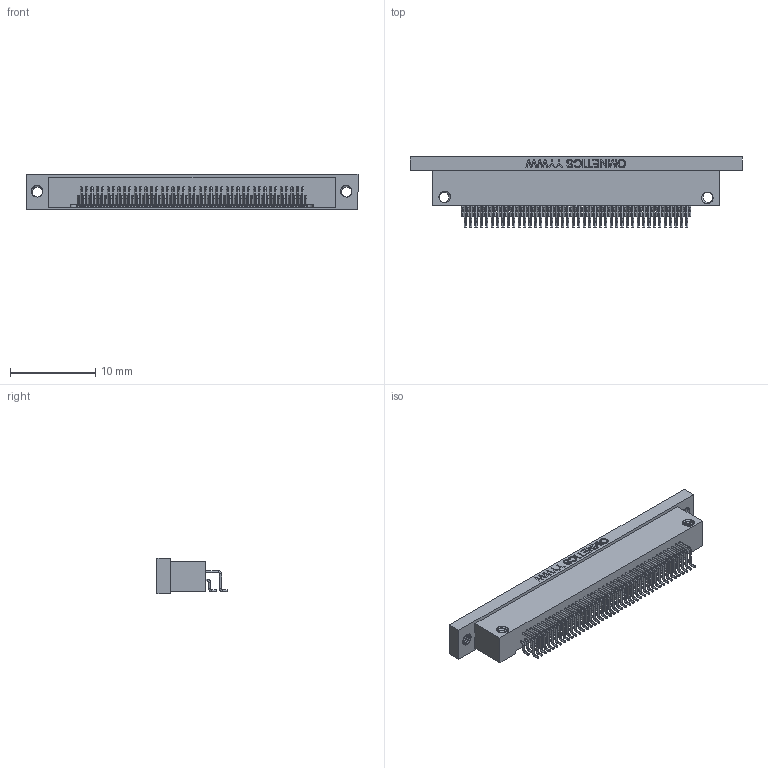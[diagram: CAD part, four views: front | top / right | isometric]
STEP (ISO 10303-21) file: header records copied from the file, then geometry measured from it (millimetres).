
FILE_DESCRIPTION (( 'STEP AP214' ), '1' );
FILE_NAME ('A29700-085 REV B.STEP', '2011-07-14T16:17:06', ( 'IT' ), ( '' ), 'SwSTEP 2.0', 'SolidWorks 2010', '' );
FILE_SCHEMA (( 'AUTOMOTIVE_DESIGN' ));
Length unit declared in the file: inch
Products named in the file (1): A29700-085
Bounding box: 38.99 x 8.23 x 4.2 mm (x, y, z)
Volume: 504.5 mm3; surface area: 1924.2 mm2
Topology: 1 solids, 4 shells, 1899 faces, 4251 edges, 2457 vertices
Faces by surface type: cylinder 972, torus 340, plane 333, cone 188, bspline 66
Entity records: 63113 total; most frequent: CARTESIAN_POINT 20012, DIRECTION 9521, ORIENTED_EDGE 8150, EDGE_CURVE 4075, AXIS2_PLACEMENT_3D 3958, VERTEX_POINT 2457, EDGE_LOOP 2180, CIRCLE 2124
